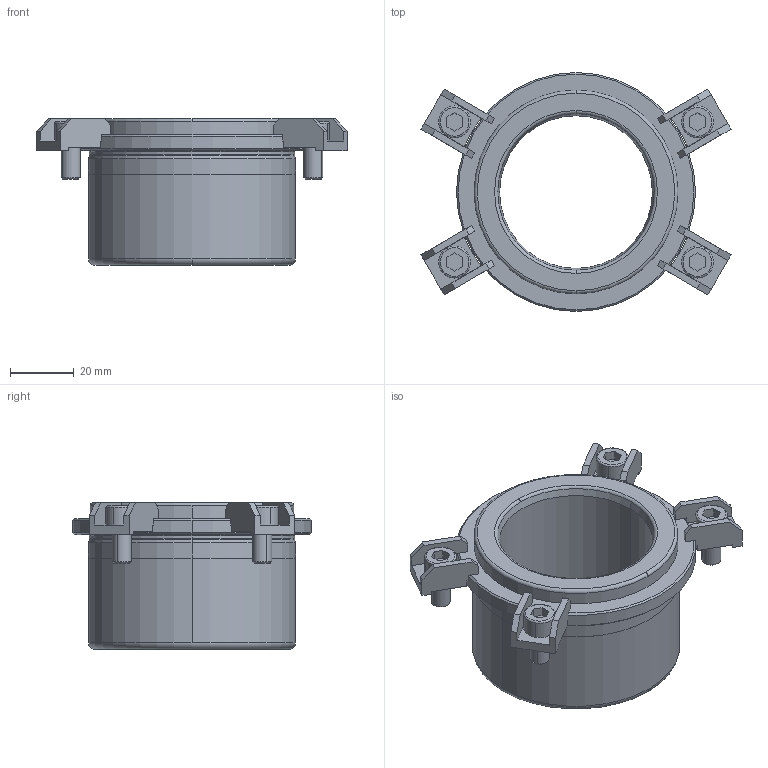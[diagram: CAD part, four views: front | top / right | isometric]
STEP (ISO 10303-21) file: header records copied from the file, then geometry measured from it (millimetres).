
FILE_DESCRIPTION((''),'2;1');
FILE_NAME('B42_040_036.stp','2008-11-04T14:35:54',(''),(''),'Mechanical Desktop 2009','Mechanical Desktop 2009',', , ');
FILE_SCHEMA(('CONFIG_CONTROL_DESIGN'));
Length unit declared in the file: millimetre
Products named in the file (2): Product; blmdl1
Assembly tree (1 placements, depth 2):
  Product
    blmdl1
Bounding box: 97.32 x 75 x 46 mm (x, y, z)
Volume: 79991.9 mm3; surface area: 27756.5 mm2
Topology: 9 solids, 9 shells, 233 faces, 598 edges, 394 vertices
Faces by surface type: plane 137, cylinder 48, cone 20, torus 16, bspline 12
Entity records: 7707 total; most frequent: CARTESIAN_POINT 1755, DIRECTION 1258, ORIENTED_EDGE 1196, EDGE_CURVE 598, AXIS2_PLACEMENT_3D 437, VERTEX_POINT 394, VECTOR 384, LINE 384
